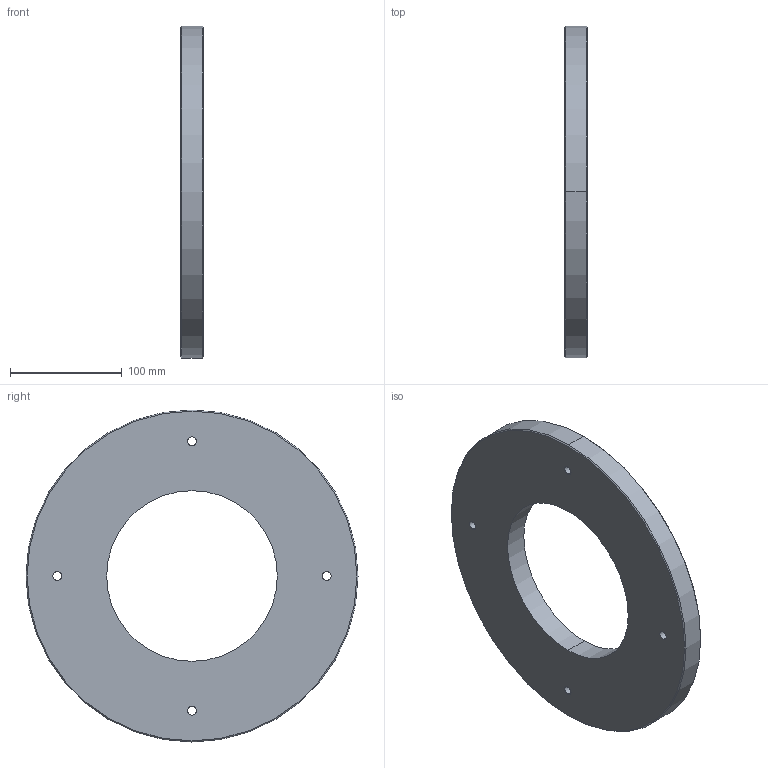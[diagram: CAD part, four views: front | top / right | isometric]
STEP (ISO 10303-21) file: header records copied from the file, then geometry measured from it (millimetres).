
FILE_DESCRIPTION (( 'STEP AP214' ), '1' );
FILE_NAME ('E38SL-6L6.0.STEP', '2016-05-23T04:45:02', ( 'eran' ), ( '' ), 'SwSTEP 2.0', 'SolidWorks 2016', '' );
FILE_SCHEMA (( 'AUTOMOTIVE_DESIGN' ));
Length unit declared in the file: millimetre
Products named in the file (1): E38SL-6L6.0
Bounding box: 20.6 x 297.4 x 297.4 mm (x, y, z)
Volume: 1047679.9 mm3; surface area: 131922.7 mm2
Topology: 1 solids, 1 shells, 18 faces, 44 edges, 28 vertices
Faces by surface type: cylinder 12, cone 4, plane 2
Entity records: 598 total; most frequent: DIRECTION 110, CARTESIAN_POINT 91, ORIENTED_EDGE 88, AXIS2_PLACEMENT_3D 47, EDGE_CURVE 44, CIRCLE 28, VERTEX_POINT 28, EDGE_LOOP 28
